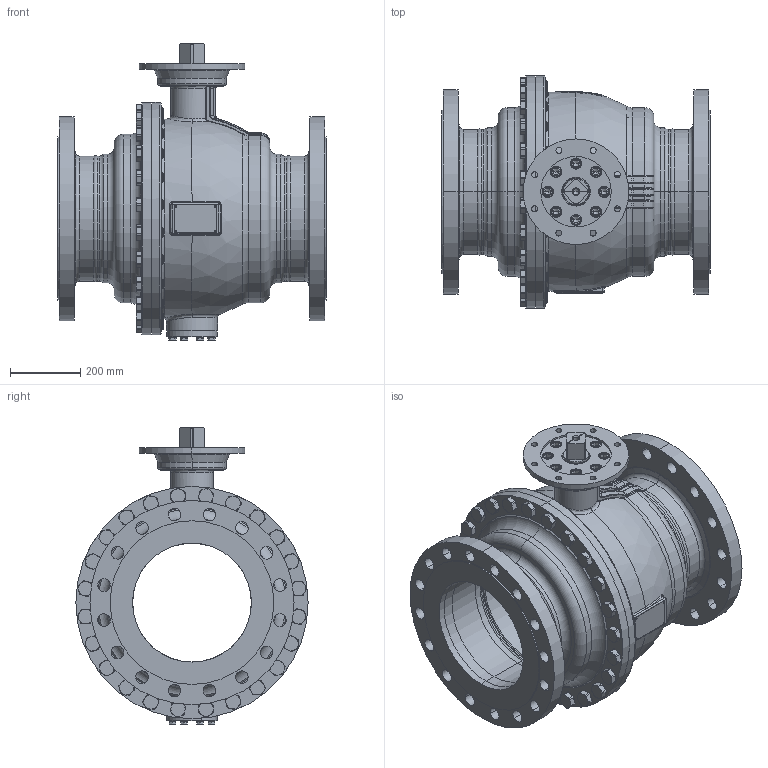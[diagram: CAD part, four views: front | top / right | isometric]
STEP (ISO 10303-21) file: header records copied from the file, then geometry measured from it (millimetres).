
FILE_DESCRIPTION((''),'2;1');
FILE_NAME('KHI-F_350_PN040-F25-4_SW0001','2026-02-05T15:18:33',('fischerkl'),('KLINGER'),'CREO PARAMETRIC BY PTC INC, 2023014','CREO PARAMETRIC BY PTC INC, 2023014','');
FILE_SCHEMA(('CONFIG_CONTROL_DESIGN'));
Products named in the file (1): KHI-F_350_PN040-F25-4_SW0001
Bounding box: 762 x 660 x 842.8 mm (x, y, z)
Volume: 50292950.7 mm3; surface area: 6318685.8 mm2
Topology: 1 solids, 4 shells, 3389 faces, 8552 edges, 5337 vertices
Faces by surface type: plane 1732, cylinder 789, cone 448, torus 291, bspline 99, sphere 30
Entity records: 143336 total; most frequent: CARTESIAN_POINT 62558, ORIENTED_EDGE 17052, DIRECTION 16733, EDGE_CURVE 8526, AXIS2_PLACEMENT_3D 6378, VERTEX_POINT 5337, VECTOR 3977, LINE 3977
